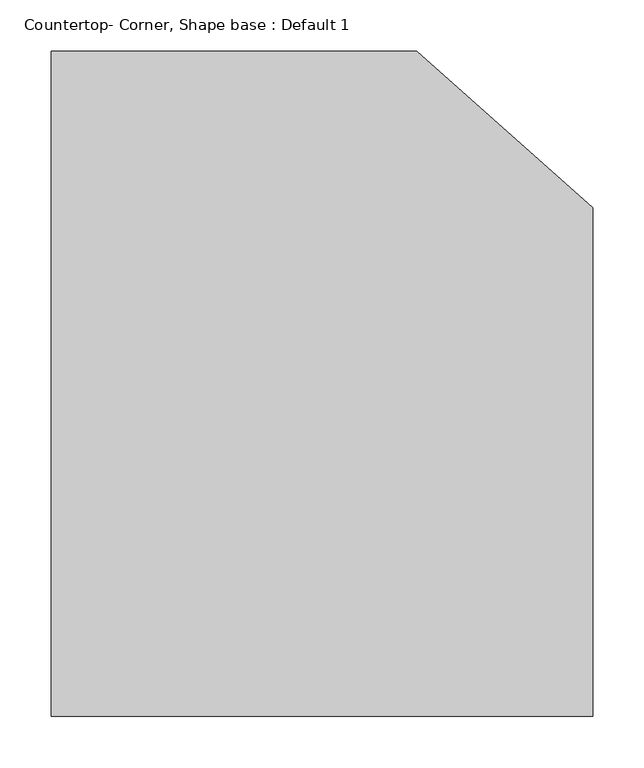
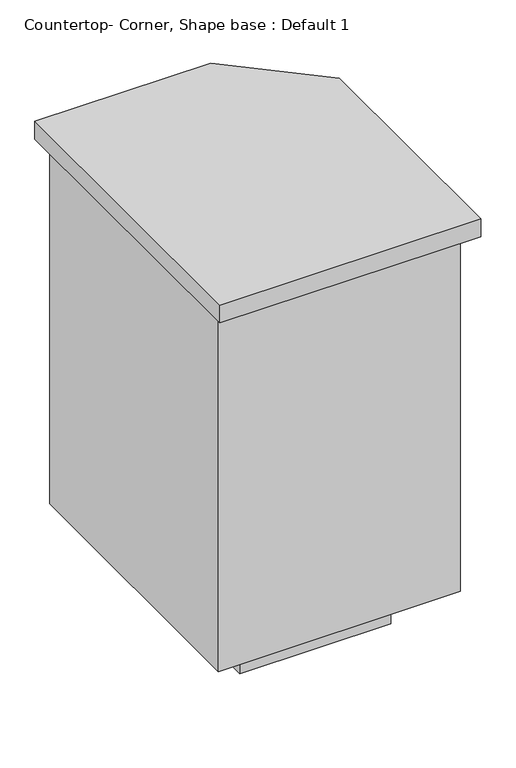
"""IFC4 building model written with IfcOpenShell, lengths in millimetres: proxy geometry, Countertop- Corner, Shape base : Default 1."""

import ifcopenshell
import ifcopenshell.guid

model = None  # the IFC model being written
_history = None  # IfcOwnerHistory: only IFC2X3 demands one
_inside = {}  # id of a spatial element -> (the spatial element, [elements in it])
_under = {}  # id of a project, library or spatial element -> (it, [spatial elements below it])
_declared = {}  # id of a project -> (the project, [libraries it declares])
_typed = {}  # id of a type object -> (the type object, [elements of that type])
_made_of = {}  # id of a material, layer set ... -> (it, [elements and type objects made of it])


def new_model(schema):
    """Start an empty IFC model of exactly this schema.

    Asked for "IFC4X3", IfcOpenShell would pick the latest addendum, in which some entities
    have other attributes; the version numbers below select the first issue.
    IFC2X3 requires an IfcOwnerHistory on every rooted entity: one is made here for all.
    """
    global model, _history
    if schema == "IFC4X3":
        model = ifcopenshell.file(schema_version=(4, 3, 0, 0))
    else:
        model = ifcopenshell.file(schema=schema)
    _inside.clear()
    _under.clear()
    _declared.clear()
    _typed.clear()
    _made_of.clear()
    _history = None
    if model.schema == "IFC2X3":
        org = make("IfcOrganization", Name="unknown")
        user = make(
            "IfcPersonAndOrganization",
            ThePerson=make("IfcPerson", FamilyName="unknown"),
            TheOrganization=org,
        )
        app = make(
            "IfcApplication",
            ApplicationDeveloper=org,
            Version="unknown",
            ApplicationFullName="unknown",
            ApplicationIdentifier="unknown",
        )
        _history = make(
            "IfcOwnerHistory",
            OwningUser=user,
            OwningApplication=app,
            ChangeAction="ADDED",
            CreationDate=0,
        )
    return model


def make(cls, **values):
    """One entity of the class cls with the attributes given. An attribute that is None is left unset."""
    return model.create_entity(
        cls, **{name: value for name, value in values.items() if value is not None}
    )


def rooted(cls, **values):
    """An entity with a GlobalId (a new one), such as an element, a storey or a relation."""
    return make(cls, GlobalId=ifcopenshell.guid.new(), OwnerHistory=_history, **values)


def si_unit(unit_type, name, prefix=None):
    """IfcSIUnit, for example si_unit("LENGTHUNIT", "METRE", prefix="MILLI")."""
    return make("IfcSIUnit", UnitType=unit_type, Prefix=prefix, Name=name)


def assignment(units):
    """IfcUnitAssignment: the units of a project."""
    return None if units is None else make("IfcUnitAssignment", Units=units)


def point(xyz):
    """IfcCartesianPoint."""
    return None if xyz is None else make("IfcCartesianPoint", Coordinates=xyz)


def direction(xyz):
    """IfcDirection."""
    return None if xyz is None else make("IfcDirection", DirectionRatios=xyz)


def frame(location, z_axis=None, x_axis=None):
    """IfcAxis2Placement3D, a coordinate frame: its origin and axes. An axis left out is left unset."""
    return make(
        "IfcAxis2Placement3D",
        Location=point(location),
        Axis=direction(z_axis),
        RefDirection=direction(x_axis),
    )


def origin():
    """The frame at (0, 0, 0) with its axes left unset."""
    return frame((0.0, 0.0, 0.0))


def origin_with_axes():
    """The frame at (0, 0, 0) with the z axis (0, 0, 1) and the x axis (1, 0, 0) written out."""
    return frame((0.0, 0.0, 0.0), z_axis=(0.0, 0.0, 1.0), x_axis=(1.0, 0.0, 0.0))


def place(relative_to, where):
    """IfcLocalPlacement: puts the frame where relative to a parent placement (None: the world)."""
    return make(
        "IfcLocalPlacement", PlacementRelTo=relative_to, RelativePlacement=where
    )


def context(
    kind, dimensions, precision=None, world=None, true_north=None, identifier=None
):
    """IfcGeometricRepresentationContext, for example the 3D "Model" context."""
    return make(
        "IfcGeometricRepresentationContext",
        ContextIdentifier=identifier,
        ContextType=kind,
        CoordinateSpaceDimension=dimensions,
        Precision=precision,
        WorldCoordinateSystem=world,
        TrueNorth=true_north,
    )


def project(units=None, contexts=None):
    """IfcProject with its units and contexts."""
    return rooted(
        "IfcProject",
        Name="project",
        RepresentationContexts=contexts,
        UnitsInContext=assignment(units),
    )


def spatial(cls, under=None, at=None, **own):
    """A site, building, storey or space (cls), placed at a placement, below another one or the project."""
    s = rooted(cls, ObjectPlacement=at, **own)
    if under is not None:
        _under.setdefault(under.id(), (under, []))[1].append(s)
    return s


def polyline(points):
    """IfcPolyline through the points."""
    return make("IfcPolyline", Points=[point(p) for p in points])


def outline(outer, holes=None, kind="AREA"):
    """IfcArbitraryClosedProfileDef: a profile drawn as a closed curve; with holes, ...WithVoids."""
    if holes is None:
        return make("IfcArbitraryClosedProfileDef", ProfileType=kind, OuterCurve=outer)
    return make(
        "IfcArbitraryProfileDefWithVoids",
        ProfileType=kind,
        OuterCurve=outer,
        InnerCurves=holes,
    )


def extrude(swept, where, along, depth):
    """IfcExtrudedAreaSolid: the profile swept, set in the frame where, extruded along a direction by depth."""
    return make(
        "IfcExtrudedAreaSolid",
        SweptArea=swept,
        Position=where,
        ExtrudedDirection=direction(along),
        Depth=depth,
    )


def shape(context_of_items, identifier, shape_type, items):
    """IfcShapeRepresentation: the items that make up one representation, for example the "Body"."""
    return make(
        "IfcShapeRepresentation",
        ContextOfItems=context_of_items,
        RepresentationIdentifier=identifier,
        RepresentationType=shape_type,
        Items=items,
    )


def source(mapping_origin, context_of_items, identifier, shape_type, items):
    """IfcRepresentationMap: a shape defined once, which mapped items show again and again."""
    return make(
        "IfcRepresentationMap",
        MappingOrigin=mapping_origin,
        MappedRepresentation=shape(context_of_items, identifier, shape_type, items),
    )


def transform(
    local_origin,
    x_axis=None,
    y_axis=None,
    z_axis=None,
    scale=None,
    scale2=None,
    scale3=None,
    uniform=True,
):
    """IfcCartesianTransformationOperator3D, or its non-uniform kind. x_axis, y_axis, z_axis: its Axis1, 2, 3."""
    if uniform:
        return make(
            "IfcCartesianTransformationOperator3D",
            Axis1=direction(x_axis),
            Axis2=direction(y_axis),
            LocalOrigin=point(local_origin),
            Scale=scale,
            Axis3=direction(z_axis),
        )
    return make(
        "IfcCartesianTransformationOperator3DnonUniform",
        Axis1=direction(x_axis),
        Axis2=direction(y_axis),
        LocalOrigin=point(local_origin),
        Scale=scale,
        Axis3=direction(z_axis),
        Scale2=scale2,
        Scale3=scale3,
    )


def mapped(mapping_source, mapping_target):
    """IfcMappedItem: shows the shape of a source again, moved by a transform."""
    return make(
        "IfcMappedItem", MappingSource=mapping_source, MappingTarget=mapping_target
    )


def made_of(thing, what):
    """Note that an element or type object is made of a material, layer set ...; save() writes the relation."""
    if what is not None:
        _made_of.setdefault(what.id(), (what, []))[1].append(thing)
    return thing


def element(
    cls,
    number,
    at=None,
    inside=None,
    cuts=None,
    type_object=None,
    material=None,
    context=None,
    identifier="Body",
    shape_type=None,
    held_by="IfcProductDefinitionShape",
    body=None,
    shapes=None,
    **own,
):
    """One element of the class cls, such as IfcWall. Its Tag is "e" and its number.

    at: its placement. inside: the storey or other place that contains it. cuts: it is an
    opening in that element (IfcRelVoidsElement). A single representation is given by context,
    identifier, shape_type and body (its items); several are given by shapes. held_by: the class
    of the entity that holds the representations. save() writes the other relations.
    """
    e = rooted(cls, Tag="e%d" % number, ObjectPlacement=at, **own)
    if body is not None:
        shapes = [shape(context, identifier, shape_type, body)]
    if shapes is not None:
        e.Representation = make(held_by, Representations=shapes)
    if inside is not None:
        _inside.setdefault(inside.id(), (inside, []))[1].append(e)
    if cuts is not None:
        rooted(
            "IfcRelVoidsElement", RelatingBuildingElement=cuts, RelatedOpeningElement=e
        )
    if type_object is not None:
        _typed.setdefault(type_object.id(), (type_object, []))[1].append(e)
    return made_of(e, material)


def aggregate(whole, parts):
    """IfcRelAggregates: a whole, such as a stair, and the parts it consists of."""
    return rooted("IfcRelAggregates", RelatingObject=whole, RelatedObjects=parts)


def save(model, path):
    """Write the relations noted so far, then the file.

    IfcRelAggregates (storeys below a building ...), IfcRelContainedInSpatialStructure (elements
    in a storey), IfcRelDefinesByType, IfcRelAssociatesMaterial and IfcRelDeclares: one each for
    every whole, place, type object, material and project.
    """
    for whole, parts in _under.values():
        aggregate(whole, parts)
    for where, things in _inside.values():
        rooted(
            "IfcRelContainedInSpatialStructure",
            RelatedElements=things,
            RelatingStructure=where,
        )
    for kind, things in _typed.values():
        rooted("IfcRelDefinesByType", RelatedObjects=things, RelatingType=kind)
    for what, things in _made_of.values():
        rooted("IfcRelAssociatesMaterial", RelatedObjects=things, RelatingMaterial=what)
    for by, libraries in _declared.values():
        rooted("IfcRelDeclares", RelatingContext=by, RelatedDefinitions=libraries)
    model.write(path)


def countertop_corner_shape_base_default_1_5ff81953(model_context):
    return source(origin(), model_context, "Body", "SweptSolid", [
        extrude(outline(polyline([(997.45, -19.05), (997.45, 628.65), (1353.0433654, 628.65), (1524.5, 476.25), (1524.5, -19.05), (997.45, -19.05)])), frame((0.0, 0.0, 876.3), z_axis=(0.0, 0.0, 1.0), x_axis=(1.0, 0.0, 0.0)), (0.0, 0.0, 1.0), 38.1),
        extrude(outline(polyline([(1016.5, 609.6), (1333.9933654, 609.6), (1505.45, 457.2), (1505.45, 19.05), (1016.5, 19.05), (1016.5, 609.6)])), frame((0.0, 0.0, 101.6), z_axis=(0.0, 0.0, 1.0), x_axis=(1.0, 0.0, 0.0)), (0.0, 0.0, 1.0), 774.7),
        extrude(outline(polyline([(1118.1, 508.0), (1257.6387817, 508.0), (1422.9, 355.6), (1422.9, 120.65), (1118.1, 120.65), (1118.1, 508.0)])), origin_with_axes(), (0.0, 0.0, 1.0), 101.6),
    ])


if __name__ == "__main__":
    model = new_model("IFC4")
    model_context = context("Model", 3, world=origin())
    ifc_project = project(units=[si_unit("LENGTHUNIT", "METRE", prefix="MILLI")], contexts=[model_context])
    site = spatial("IfcSite", under=ifc_project)
    building = spatial("IfcBuilding", under=site)
    placement = place(None, origin())
    countertop_corner_shape_base_default_1_shape = countertop_corner_shape_base_default_1_5ff81953(model_context)
    element("IfcBuildingElementProxy", 1, Name="Countertop- Corner, Shape base : Default 1", ObjectType="Countertop- Corner, Shape base : Default 1", at=placement, inside=building, context=model_context, shape_type="MappedRepresentation", body=[
        mapped(countertop_corner_shape_base_default_1_shape, transform((0.0, 0.0, 0.0), x_axis=(1.0, 0.0, 0.0), y_axis=(0.0, 1.0, 0.0), z_axis=(0.0, 0.0, 1.0))),
    ])
    save(model, "model.ifc")
